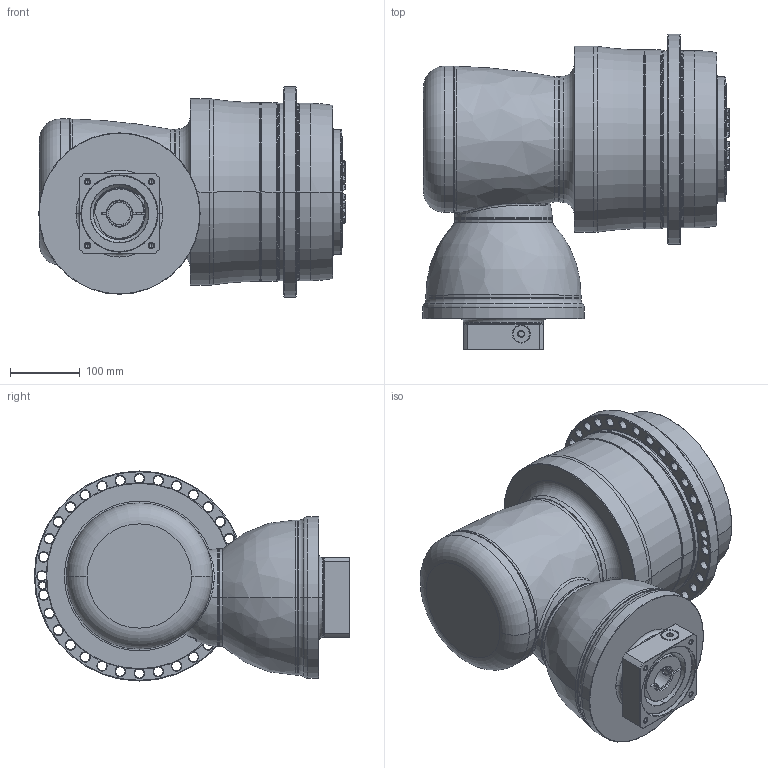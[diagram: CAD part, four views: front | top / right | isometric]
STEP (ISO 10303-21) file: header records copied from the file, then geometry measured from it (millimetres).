
FILE_DESCRIPTION((''),'2;1');
FILE_NAME('APCK255_3ST_32-P0409710201_ASM','2018-05-14T',('d01226'),(''),'PRO/ENGINEER BY PARAMETRIC TECHNOLOGY CORPORATION, 2008410','PRO/ENGINEER BY PARAMETRIC TECHNOLOGY CORPORATION, 2008410','');
FILE_SCHEMA(('CONFIG_CONTROL_DESIGN'));
Length unit declared in the file: millimetre
Products named in the file (13): P1008600002; P1832700001; P0278701003; P0359770103; P1211700001; P1315600001; P1007601001; P1318610001; P0409710201; P0503700010; P0912650001; 21711418017; APCK255_3ST_32-P0409710201_ASM
Assembly tree (12 placements, depth 2):
  APCK255_3ST_32-P0409710201_ASM
    P1008600002
    P1832700001
    P0278701003
    P0359770103
    P1211700001
    P1315600001
    P1007601001
    P1318610001
    P0409710201
    P0503700010
    P0912650001
    21711418017
Bounding box: 440.6 x 453.5 x 302 mm (x, y, z)
Volume: 22652627.7 mm3; surface area: 1359215.2 mm2
Topology: 13 solids, 25 shells, 807 faces, 1943 edges, 1184 vertices
Faces by surface type: cone 269, cylinder 240, plane 138, torus 125, bspline 33, sphere 2
Entity records: 30823 total; most frequent: CARTESIAN_POINT 11465, DIRECTION 4335, ORIENTED_EDGE 3808, EDGE_CURVE 1929, AXIS2_PLACEMENT_3D 1900, VERTEX_POINT 1184, CIRCLE 1089, EDGE_LOOP 927
